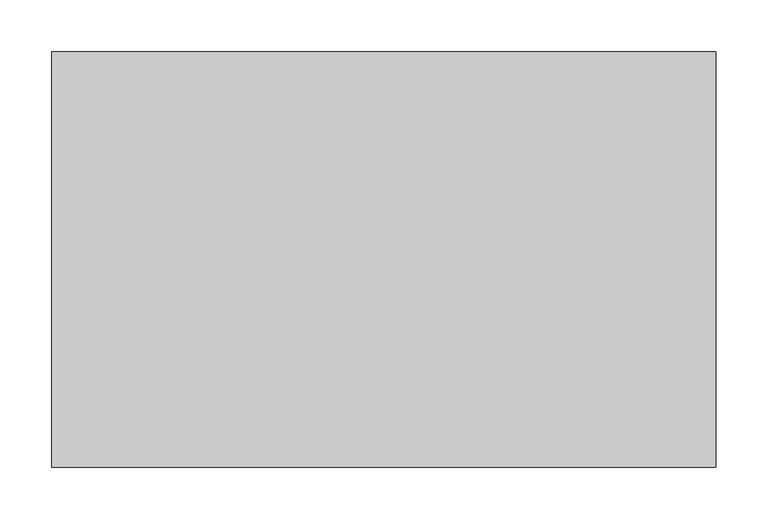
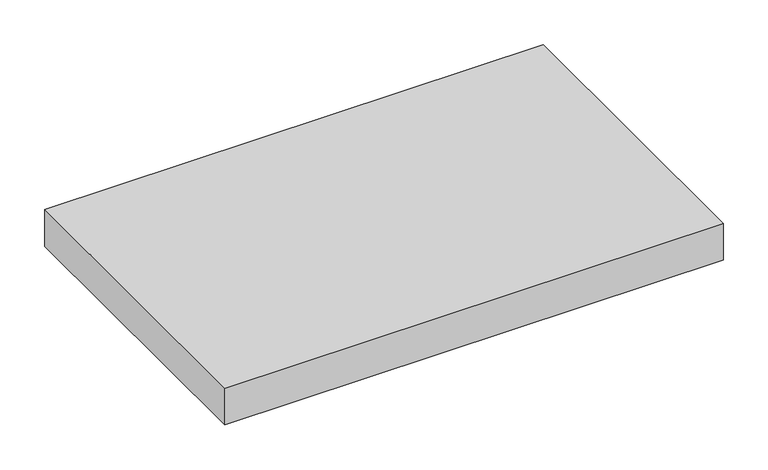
"""IFC4 building model written with IfcOpenShell, lengths in millimetres: proxy geometry, Modelos genéricos 167 : Modelos genéricos 162."""

from ifc_helpers import new_model, si_unit, frame, origin, place, context, project, spatial, polyline, outline, extrude, source, transform, mapped, element, save


def generic_models_db750631(model_context):
    return source(origin(), model_context, "Body", "SweptSolid", [
        extrude(outline(polyline([(-3508.4456835, -10604.0426786), (-4148.4456835, -10604.0426786), (-4148.4456835, -10204.0426786), (-3508.4456835, -10204.0426786), (-3508.4456835, -10604.0426786)])), frame((0.0, 0.0, 990.0), z_axis=(0.0, 0.0, 1.0), x_axis=(1.0, 0.0, 0.0)), (0.0, 0.0, 1.0), 50.0),
    ])


if __name__ == "__main__":
    model = new_model("IFC4")
    model_context = context("Model", 3, world=origin())
    ifc_project = project(units=[si_unit("LENGTHUNIT", "METRE", prefix="MILLI")], contexts=[model_context])
    site = spatial("IfcSite", under=ifc_project)
    building = spatial("IfcBuilding", under=site)
    placement = place(None, origin())
    generic_models_shape = generic_models_db750631(model_context)
    element("IfcBuildingElementProxy", 1, Name="Modelos genéricos 167 : Modelos genéricos 162", ObjectType="Modelos genéricos 167 : Modelos genéricos 162", at=placement, inside=building, context=model_context, shape_type="MappedRepresentation", body=[
        mapped(generic_models_shape, transform((0.0, 0.0, 0.0), x_axis=(1.0, 0.0, 0.0), y_axis=(0.0, 1.0, 0.0), z_axis=(0.0, 0.0, 1.0))),
    ])
    save(model, "model.ifc")
